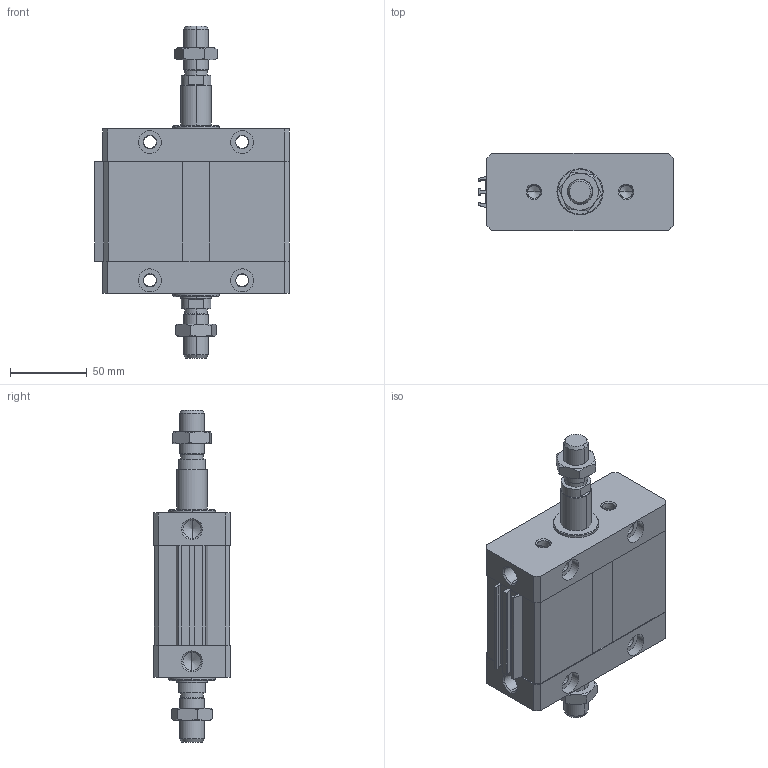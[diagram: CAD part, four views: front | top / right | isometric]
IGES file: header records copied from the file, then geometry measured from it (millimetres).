
Global section: file name: No Iges File Name specified; native system: Autodesk Inventor 2011; preprocessor: AutoDesk Inventor Iges Exporter R2011; author: airolcr1; date: 20101213.153445; units: millimetre
Bounding box: 126.75 x 50 x 216 mm (x, y, z)
Volume: 576202.5 mm3; surface area: 127046.6 mm2
Topology: 6 solids, 6 shells, 280 faces, 664 edges, 396 vertices
Faces by surface type: bspline 114, plane 98, cone 36, cylinder 18, revolution 14
